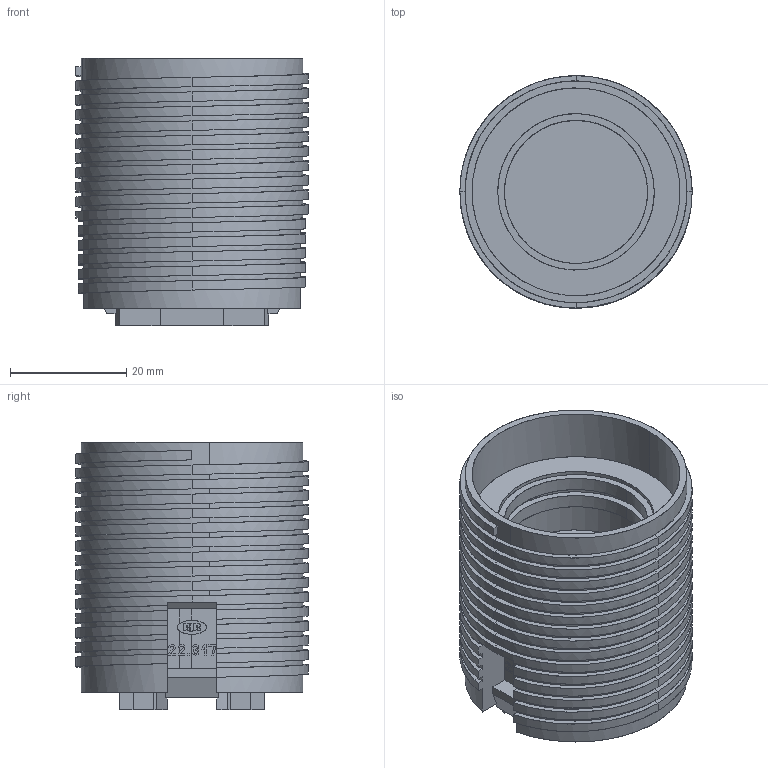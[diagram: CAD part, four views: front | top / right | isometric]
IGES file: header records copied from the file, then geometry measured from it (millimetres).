
Start section: Surface Model. Bezier boundary curves.
Global section: file name: 005Y50PZ01.igs; native system: TRANS-3D by CORETECH International; preprocessor: 2.1; date: 020427.111704; units: millimetre
Bounding box: 40 x 40 x 46 mm (x, y, z)
Surface area: 15098.5 mm2 (no closed solid volume)
Topology: 0 solids, 0 shells, 670 faces, 4171 edges, 4171 vertices
Faces by surface type: bspline 670
